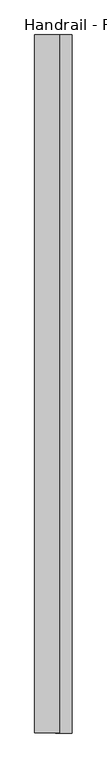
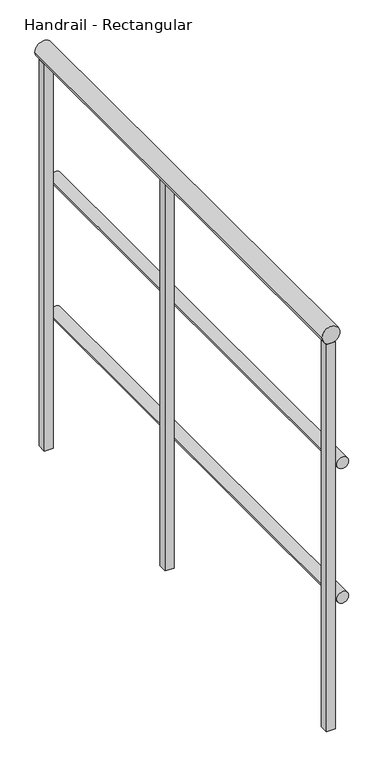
"""IFC4 building model written with IfcOpenShell, lengths in millimetres: railing geometry, Handrail - Rectangular."""

import ifcopenshell
import ifcopenshell.guid

model = None  # the IFC model being written
_history = None  # IfcOwnerHistory: only IFC2X3 demands one
_inside = {}  # id of a spatial element -> (the spatial element, [elements in it])
_under = {}  # id of a project, library or spatial element -> (it, [spatial elements below it])
_declared = {}  # id of a project -> (the project, [libraries it declares])
_typed = {}  # id of a type object -> (the type object, [elements of that type])
_made_of = {}  # id of a material, layer set ... -> (it, [elements and type objects made of it])


def new_model(schema):
    """Start an empty IFC model of exactly this schema.

    Asked for "IFC4X3", IfcOpenShell would pick the latest addendum, in which some entities
    have other attributes; the version numbers below select the first issue.
    IFC2X3 requires an IfcOwnerHistory on every rooted entity: one is made here for all.
    """
    global model, _history
    if schema == "IFC4X3":
        model = ifcopenshell.file(schema_version=(4, 3, 0, 0))
    else:
        model = ifcopenshell.file(schema=schema)
    _inside.clear()
    _under.clear()
    _declared.clear()
    _typed.clear()
    _made_of.clear()
    _history = None
    if model.schema == "IFC2X3":
        org = make("IfcOrganization", Name="unknown")
        user = make(
            "IfcPersonAndOrganization",
            ThePerson=make("IfcPerson", FamilyName="unknown"),
            TheOrganization=org,
        )
        app = make(
            "IfcApplication",
            ApplicationDeveloper=org,
            Version="unknown",
            ApplicationFullName="unknown",
            ApplicationIdentifier="unknown",
        )
        _history = make(
            "IfcOwnerHistory",
            OwningUser=user,
            OwningApplication=app,
            ChangeAction="ADDED",
            CreationDate=0,
        )
    return model


def make(cls, **values):
    """One entity of the class cls with the attributes given. An attribute that is None is left unset."""
    return model.create_entity(
        cls, **{name: value for name, value in values.items() if value is not None}
    )


def rooted(cls, **values):
    """An entity with a GlobalId (a new one), such as an element, a storey or a relation."""
    return make(cls, GlobalId=ifcopenshell.guid.new(), OwnerHistory=_history, **values)


def si_unit(unit_type, name, prefix=None):
    """IfcSIUnit, for example si_unit("LENGTHUNIT", "METRE", prefix="MILLI")."""
    return make("IfcSIUnit", UnitType=unit_type, Prefix=prefix, Name=name)


def assignment(units):
    """IfcUnitAssignment: the units of a project."""
    return None if units is None else make("IfcUnitAssignment", Units=units)


def point(xyz):
    """IfcCartesianPoint."""
    return None if xyz is None else make("IfcCartesianPoint", Coordinates=xyz)


def direction(xyz):
    """IfcDirection."""
    return None if xyz is None else make("IfcDirection", DirectionRatios=xyz)


def frame(location, z_axis=None, x_axis=None):
    """IfcAxis2Placement3D, a coordinate frame: its origin and axes. An axis left out is left unset."""
    return make(
        "IfcAxis2Placement3D",
        Location=point(location),
        Axis=direction(z_axis),
        RefDirection=direction(x_axis),
    )


def frame_2d(location, x_axis=None):
    """IfcAxis2Placement2D, a coordinate frame in the plane: its origin and x axis."""
    return make(
        "IfcAxis2Placement2D", Location=point(location), RefDirection=direction(x_axis)
    )


def origin():
    """The frame at (0, 0, 0) with its axes left unset."""
    return frame((0.0, 0.0, 0.0))


def place(relative_to, where):
    """IfcLocalPlacement: puts the frame where relative to a parent placement (None: the world)."""
    return make(
        "IfcLocalPlacement", PlacementRelTo=relative_to, RelativePlacement=where
    )


def context(
    kind, dimensions, precision=None, world=None, true_north=None, identifier=None
):
    """IfcGeometricRepresentationContext, for example the 3D "Model" context."""
    return make(
        "IfcGeometricRepresentationContext",
        ContextIdentifier=identifier,
        ContextType=kind,
        CoordinateSpaceDimension=dimensions,
        Precision=precision,
        WorldCoordinateSystem=world,
        TrueNorth=true_north,
    )


def project(units=None, contexts=None):
    """IfcProject with its units and contexts."""
    return rooted(
        "IfcProject",
        Name="project",
        RepresentationContexts=contexts,
        UnitsInContext=assignment(units),
    )


def spatial(cls, under=None, at=None, **own):
    """A site, building, storey or space (cls), placed at a placement, below another one or the project."""
    s = rooted(cls, ObjectPlacement=at, **own)
    if under is not None:
        _under.setdefault(under.id(), (under, []))[1].append(s)
    return s


def polyline(points):
    """IfcPolyline through the points."""
    return make("IfcPolyline", Points=[point(p) for p in points])


def circle_curve(where, radius):
    """IfcCircle in the frame where."""
    return make("IfcCircle", Position=where, Radius=radius)


def trimmed(basis, trim1, trim2, sense, master):
    """IfcTrimmedCurve: the piece of a basis curve between two trims."""
    return make(
        "IfcTrimmedCurve",
        BasisCurve=basis,
        Trim1=trim1,
        Trim2=trim2,
        SenseAgreement=sense,
        MasterRepresentation=master,
    )


def segment(curve, same_sense, transition):
    """IfcCompositeCurveSegment."""
    return make(
        "IfcCompositeCurveSegment",
        Transition=transition,
        SameSense=same_sense,
        ParentCurve=curve,
    )


def composite_curve(segments, self_intersect=None):
    """IfcCompositeCurve: segments joined end to end."""
    return make("IfcCompositeCurve", Segments=segments, SelfIntersect=self_intersect)


def outline(outer, holes=None, kind="AREA"):
    """IfcArbitraryClosedProfileDef: a profile drawn as a closed curve; with holes, ...WithVoids."""
    if holes is None:
        return make("IfcArbitraryClosedProfileDef", ProfileType=kind, OuterCurve=outer)
    return make(
        "IfcArbitraryProfileDefWithVoids",
        ProfileType=kind,
        OuterCurve=outer,
        InnerCurves=holes,
    )


def extrude(swept, where, along, depth):
    """IfcExtrudedAreaSolid: the profile swept, set in the frame where, extruded along a direction by depth."""
    return make(
        "IfcExtrudedAreaSolid",
        SweptArea=swept,
        Position=where,
        ExtrudedDirection=direction(along),
        Depth=depth,
    )


def shape(context_of_items, identifier, shape_type, items):
    """IfcShapeRepresentation: the items that make up one representation, for example the "Body"."""
    return make(
        "IfcShapeRepresentation",
        ContextOfItems=context_of_items,
        RepresentationIdentifier=identifier,
        RepresentationType=shape_type,
        Items=items,
    )


def source(mapping_origin, context_of_items, identifier, shape_type, items):
    """IfcRepresentationMap: a shape defined once, which mapped items show again and again."""
    return make(
        "IfcRepresentationMap",
        MappingOrigin=mapping_origin,
        MappedRepresentation=shape(context_of_items, identifier, shape_type, items),
    )


def transform(
    local_origin,
    x_axis=None,
    y_axis=None,
    z_axis=None,
    scale=None,
    scale2=None,
    scale3=None,
    uniform=True,
):
    """IfcCartesianTransformationOperator3D, or its non-uniform kind. x_axis, y_axis, z_axis: its Axis1, 2, 3."""
    if uniform:
        return make(
            "IfcCartesianTransformationOperator3D",
            Axis1=direction(x_axis),
            Axis2=direction(y_axis),
            LocalOrigin=point(local_origin),
            Scale=scale,
            Axis3=direction(z_axis),
        )
    return make(
        "IfcCartesianTransformationOperator3DnonUniform",
        Axis1=direction(x_axis),
        Axis2=direction(y_axis),
        LocalOrigin=point(local_origin),
        Scale=scale,
        Axis3=direction(z_axis),
        Scale2=scale2,
        Scale3=scale3,
    )


def mapped(mapping_source, mapping_target):
    """IfcMappedItem: shows the shape of a source again, moved by a transform."""
    return make(
        "IfcMappedItem", MappingSource=mapping_source, MappingTarget=mapping_target
    )


def made_of(thing, what):
    """Note that an element or type object is made of a material, layer set ...; save() writes the relation."""
    if what is not None:
        _made_of.setdefault(what.id(), (what, []))[1].append(thing)
    return thing


def element(
    cls,
    number,
    at=None,
    inside=None,
    cuts=None,
    type_object=None,
    material=None,
    context=None,
    identifier="Body",
    shape_type=None,
    held_by="IfcProductDefinitionShape",
    body=None,
    shapes=None,
    **own,
):
    """One element of the class cls, such as IfcWall. Its Tag is "e" and its number.

    at: its placement. inside: the storey or other place that contains it. cuts: it is an
    opening in that element (IfcRelVoidsElement). A single representation is given by context,
    identifier, shape_type and body (its items); several are given by shapes. held_by: the class
    of the entity that holds the representations. save() writes the other relations.
    """
    e = rooted(cls, Tag="e%d" % number, ObjectPlacement=at, **own)
    if body is not None:
        shapes = [shape(context, identifier, shape_type, body)]
    if shapes is not None:
        e.Representation = make(held_by, Representations=shapes)
    if inside is not None:
        _inside.setdefault(inside.id(), (inside, []))[1].append(e)
    if cuts is not None:
        rooted(
            "IfcRelVoidsElement", RelatingBuildingElement=cuts, RelatedOpeningElement=e
        )
    if type_object is not None:
        _typed.setdefault(type_object.id(), (type_object, []))[1].append(e)
    return made_of(e, material)


def aggregate(whole, parts):
    """IfcRelAggregates: a whole, such as a stair, and the parts it consists of."""
    return rooted("IfcRelAggregates", RelatingObject=whole, RelatedObjects=parts)


def save(model, path):
    """Write the relations noted so far, then the file.

    IfcRelAggregates (storeys below a building ...), IfcRelContainedInSpatialStructure (elements
    in a storey), IfcRelDefinesByType, IfcRelAssociatesMaterial and IfcRelDeclares: one each for
    every whole, place, type object, material and project.
    """
    for whole, parts in _under.values():
        aggregate(whole, parts)
    for where, things in _inside.values():
        rooted(
            "IfcRelContainedInSpatialStructure",
            RelatedElements=things,
            RelatingStructure=where,
        )
    for kind, things in _typed.values():
        rooted("IfcRelDefinesByType", RelatedObjects=things, RelatingType=kind)
    for what, things in _made_of.values():
        rooted("IfcRelAssociatesMaterial", RelatedObjects=things, RelatingMaterial=what)
    for by, libraries in _declared.values():
        rooted("IfcRelDeclares", RelatingContext=by, RelatedDefinitions=libraries)
    model.write(path)


def handrail_rectangular_5aa2e3ec(model_context):
    return source(origin(), model_context, "Body", "SweptSolid", [
        extrude(outline(composite_curve([segment(trimmed(circle_curve(frame_2d((3644.9, 2322.5410437)), 12.7), [point((3644.9, 2335.2410437))], [point((3644.9, 2309.8410437))], False, "CARTESIAN"), True, "CONTINUOUS"), segment(trimmed(circle_curve(frame_2d((3644.9, 2322.5410437)), 12.7), [point((3644.9, 2309.8410437))], [point((3644.9, 2335.2410437))], False, "CARTESIAN"), True, "CONTINUOUS")], self_intersect=False)), frame((0.0, -35349.9683133, 0.0), z_axis=(0.0, 1.0, 0.0), x_axis=(0.0, 0.0, 1.0)), (0.0, 0.0, 1.0), 1066.8),
        extrude(outline(composite_curve([segment(trimmed(circle_curve(frame_2d((3340.1, 2322.5410437)), 12.7), [point((3340.1, 2335.2410437))], [point((3340.1, 2309.8410437))], False, "CARTESIAN"), True, "CONTINUOUS"), segment(trimmed(circle_curve(frame_2d((3340.1, 2322.5410437)), 12.7), [point((3340.1, 2309.8410437))], [point((3340.1, 2335.2410437))], False, "CARTESIAN"), True, "CONTINUOUS")], self_intersect=False)), frame((0.0, -35349.9683133, 0.0), z_axis=(0.0, 1.0, 0.0), x_axis=(0.0, 0.0, 1.0)), (0.0, 0.0, 1.0), 1066.8),
        extrude(outline(composite_curve([segment(trimmed(circle_curve(frame_2d((3943.35, 2297.1410437)), 19.05), [point((3943.35, 2316.1910437))], [point((3943.35, 2278.0910437))], False, "CARTESIAN"), True, "CONTINUOUS"), segment(trimmed(circle_curve(frame_2d((3943.35, 2297.1410437)), 19.05), [point((3943.35, 2278.0910437))], [point((3943.35, 2316.1910437))], False, "CARTESIAN"), True, "CONTINUOUS")], self_intersect=False)), frame((0.0, -35349.9683133, 0.0), z_axis=(0.0, 1.0, 0.0), x_axis=(0.0, 0.0, 1.0)), (0.0, 0.0, 1.0), 1066.8),
        extrude(outline(polyline([(2287.6160437, -34749.8933133), (2287.6160437, -34730.8433133), (2306.6660437, -34730.8433133), (2306.6660437, -34749.8933133), (2287.6160437, -34749.8933133)])), frame((0.0, 0.0, 3048.0), z_axis=(0.0, 0.0, 1.0), x_axis=(1.0, 0.0, 0.0)), (0.0, 0.0, 1.0), 876.3),
        extrude(outline(polyline([(2287.6160437, -34302.2183133), (2287.6160437, -34283.1683133), (2306.6660437, -34283.1683133), (2306.6660437, -34302.2183133), (2287.6160437, -34302.2183133)])), frame((0.0, 0.0, 3048.0), z_axis=(0.0, 0.0, 1.0), x_axis=(1.0, 0.0, 0.0)), (0.0, 0.0, 1.0), 876.3),
        extrude(outline(polyline([(2287.6160437, -35349.9683133), (2287.6160437, -35330.9183133), (2306.6660437, -35330.9183133), (2306.6660437, -35349.9683133), (2287.6160437, -35349.9683133)])), frame((0.0, 0.0, 3048.0), z_axis=(0.0, 0.0, 1.0), x_axis=(1.0, 0.0, 0.0)), (0.0, 0.0, 1.0), 876.3),
    ])


if __name__ == "__main__":
    model = new_model("IFC4")
    model_context = context("Model", 3, world=origin())
    ifc_project = project(units=[si_unit("LENGTHUNIT", "METRE", prefix="MILLI")], contexts=[model_context])
    site = spatial("IfcSite", under=ifc_project)
    building = spatial("IfcBuilding", under=site)
    placement = place(None, origin())
    handrail_rectangular_shape = handrail_rectangular_5aa2e3ec(model_context)
    element("IfcRailing", 1, ObjectType="Handrail - Rectangular", at=placement, inside=building, context=model_context, shape_type="MappedRepresentation", body=[
        mapped(handrail_rectangular_shape, transform((0.0, 0.0, 0.0), x_axis=(1.0, 0.0, 0.0), y_axis=(0.0, 1.0, 0.0), z_axis=(0.0, 0.0, 1.0))),
    ])
    save(model, "model.ifc")
